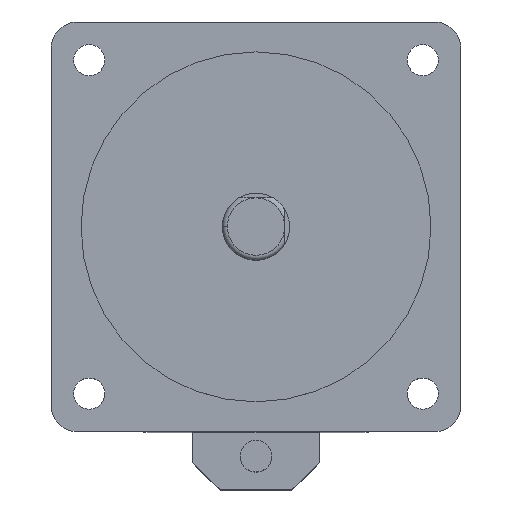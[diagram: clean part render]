
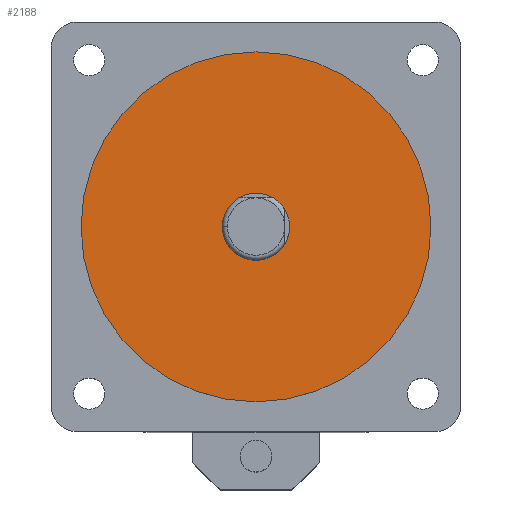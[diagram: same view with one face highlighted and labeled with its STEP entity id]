
A CAD part, top view. The second image highlights one B-rep face of the part: STEP entity #2188.
In plain terms, the highlighted planar face has unit normal (0, 0, 1).
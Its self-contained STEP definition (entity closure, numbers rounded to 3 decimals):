
#58 = DIRECTION ( 'NONE',  ( 0., 0., -1. ) ) ;
#130 = EDGE_LOOP ( 'NONE', ( #1697, #1694 ) ) ;
#145 = EDGE_CURVE ( 'NONE', #148, #901, #1113, .T. ) ;
#148 = VERTEX_POINT ( 'NONE', #1133 ) ;
#210 = FACE_BOUND ( 'NONE', #130, .T. ) ;
#237 = EDGE_CURVE ( 'NONE', #1877, #2634, #834, .T. ) ;
#265 = AXIS2_PLACEMENT_3D ( 'NONE', #2456, #1532, #2685 ) ;
#379 = AXIS2_PLACEMENT_3D ( 'NONE', #1587, #2018, #2049 ) ;
#510 = DIRECTION ( 'NONE',  ( 0., 0., -1. ) ) ;
#754 = PLANE ( 'NONE',  #2853 ) ;
#760 = ORIENTED_EDGE ( 'NONE', *, *, #2560, .F. ) ;
#820 = FACE_OUTER_BOUND ( 'NONE', #2207, .T. ) ;
#834 = CIRCLE ( 'NONE', #1327, 7. ) ;
#901 = VERTEX_POINT ( 'NONE', #2767 ) ;
#1113 = CIRCLE ( 'NONE', #379, 36.513 ) ;
#1133 = CARTESIAN_POINT ( 'NONE',  ( -36.513, 0., 0. ) ) ;
#1251 = CARTESIAN_POINT ( 'NONE',  ( 7., 0., 0. ) ) ;
#1305 = CIRCLE ( 'NONE', #265, 36.513 ) ;
#1311 = CIRCLE ( 'NONE', #2769, 7. ) ;
#1327 = AXIS2_PLACEMENT_3D ( 'NONE', #2508, #58, #1620 ) ;
#1532 = DIRECTION ( 'NONE',  ( 0., 0., -1. ) ) ;
#1587 = CARTESIAN_POINT ( 'NONE',  ( 0., 0., 0. ) ) ;
#1612 = DIRECTION ( 'NONE',  ( -1., 0., 0. ) ) ;
#1620 = DIRECTION ( 'NONE',  ( -1., 0., 0. ) ) ;
#1681 = CARTESIAN_POINT ( 'NONE',  ( 0., 0., 0. ) ) ;
#1694 = ORIENTED_EDGE ( 'NONE', *, *, #237, .T. ) ;
#1697 = ORIENTED_EDGE ( 'NONE', *, *, #1738, .T. ) ;
#1738 = EDGE_CURVE ( 'NONE', #2634, #1877, #1311, .T. ) ;
#1784 = CARTESIAN_POINT ( 'NONE',  ( -7., 0., 0. ) ) ;
#1873 = DIRECTION ( 'NONE',  ( 0., 0., -1. ) ) ;
#1877 = VERTEX_POINT ( 'NONE', #1251 ) ;
#1884 = CARTESIAN_POINT ( 'NONE',  ( 0., 0., 0. ) ) ;
#2018 = DIRECTION ( 'NONE',  ( 0., 0., -1. ) ) ;
#2049 = DIRECTION ( 'NONE',  ( -1., 0., 0. ) ) ;
#2188 = ADVANCED_FACE ( 'NONE', ( #820, #210 ), #754, .F. ) ;
#2207 = EDGE_LOOP ( 'NONE', ( #760, #2926 ) ) ;
#2456 = CARTESIAN_POINT ( 'NONE',  ( 0., 0., 0. ) ) ;
#2508 = CARTESIAN_POINT ( 'NONE',  ( 0., 0., 0. ) ) ;
#2560 = EDGE_CURVE ( 'NONE', #901, #148, #1305, .T. ) ;
#2566 = DIRECTION ( 'NONE',  ( -1., 0., 0. ) ) ;
#2634 = VERTEX_POINT ( 'NONE', #1784 ) ;
#2685 = DIRECTION ( 'NONE',  ( -1., 0., 0. ) ) ;
#2767 = CARTESIAN_POINT ( 'NONE',  ( 36.513, 0., 0. ) ) ;
#2769 = AXIS2_PLACEMENT_3D ( 'NONE', #1681, #1873, #2566 ) ;
#2853 = AXIS2_PLACEMENT_3D ( 'NONE', #1884, #510, #1612 ) ;
#2926 = ORIENTED_EDGE ( 'NONE', *, *, #145, .F. ) ;
